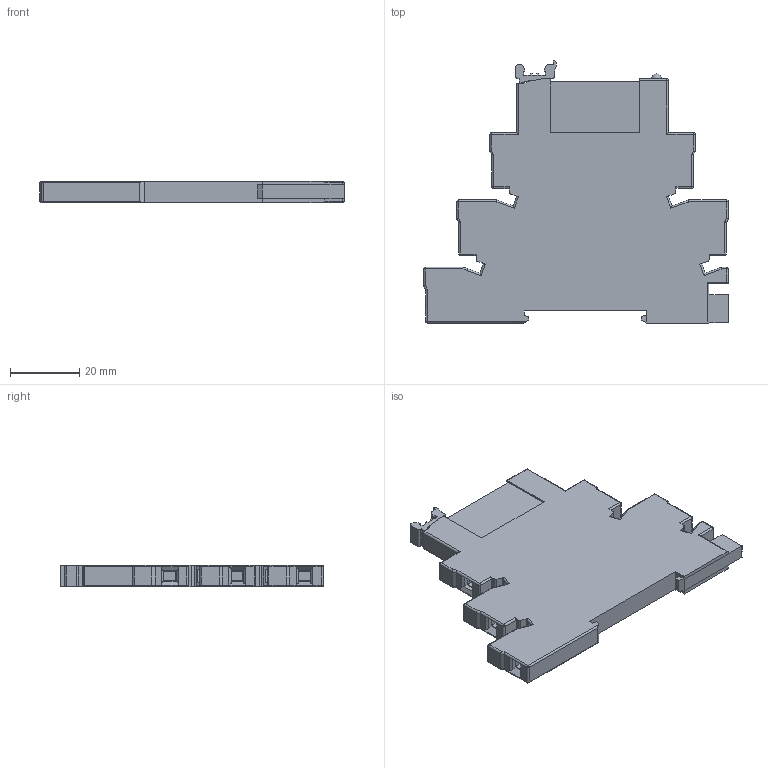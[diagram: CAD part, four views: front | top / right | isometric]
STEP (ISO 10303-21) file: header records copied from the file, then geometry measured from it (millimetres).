
FILE_DESCRIPTION(('STEP AP214'),'2;1');
FILE_NAME('38_21=93_21+34_51---skin.stp','2010-04-23T15:27:35',(''),(''),'2007.1.106','THINKDESIGN','');
FILE_SCHEMA(('AUTOMOTIVE_DESIGN'));
Length unit declared in the file: millimetre
Products named in the file (1): None
Bounding box: 87.85 x 75.58 x 6.2 mm (x, y, z)
Surface area: 14113.9 mm2 (no closed solid volume)
Topology: 0 solids, 0 shells, 639 faces, 3340 edges, 3312 vertices
Faces by surface type: plane 454, cylinder 143, bspline 42
Full cylindrical faces by diameter (mm): 2.2 x5, 2.459 x5, 3.3 x1, 3.5 x1, 3.8 x5, 4 x5
Entity records: 34099 total; most frequent: CARTESIAN_POINT 9248, DIRECTION 4362, COMPOSITE_CURVE_SEGMENT 3314, TRIMMED_CURVE 2911, VECTOR 2654, LINE 2654, AXIS2_PLACEMENT_3D 854, OUTER_BOUNDARY_CURVE 639
